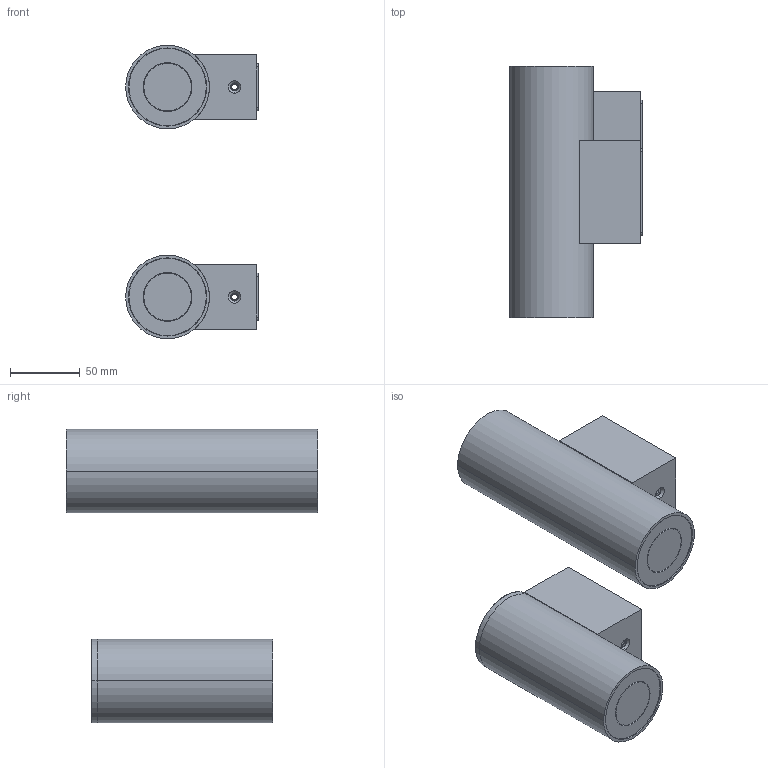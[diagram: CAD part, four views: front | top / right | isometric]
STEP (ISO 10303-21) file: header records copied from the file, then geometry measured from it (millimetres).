
FILE_DESCRIPTION((''),'2;1');
FILE_NAME('B7DH01-0224_ASM','2024-09-04T',('Administrator'),(''),'CREO PARAMETRIC BY PTC INC, 2015200','CREO PARAMETRIC BY PTC INC, 2015200','');
FILE_SCHEMA(('CONFIG_CONTROL_DESIGN'));
Products named in the file (40): DENGTI_130; SOURCE_ASM_131_ASM; MUZU_ASM_132_ASM; HOUGAI0_124; D60_ASM_129_ASM; SANREKUAI_132; SUJIAOJIAN_140; 7DH-SANREGUAN_132; FWZ2_128; GUIJIAO001_15; D60_ASM_333_ASM; ZHICHENBAN_4_9; GJ_12; PRT0001_2_13; 8DI-MGGB_5; PRT0003_11; 9-8-8DH_ASM_ASM_99_ASM; 8DI_ASM; BIBAN_137; GUDINGZUO_156; GUIJIAO01_39; GUIJIAO02_37; BAOMIAN_134; MZZHIJIA0-00_18; SUJIAOMUZHU_108; DIANYUANHEGAI_138; 7DH-12345678_ASM; B7DH0124_ASM; DENGTI_102; COBZHIJIA_85; TOUJING_85; CHQ-NC_13; GUANGYUAN_14; SOURCE_ASM_85_ASM; SUJIAOJIAN_84; SANREKUAI2_85; FWZ2_51; D60_ASM_33_ASM; B7DH0224_ASM; B7DH01-0224_ASM
Assembly tree (45 placements, depth 5):
  B7DH01-0224_ASM
    B7DH0124_ASM
      D60_ASM_129_ASM
        DENGTI_130
        SOURCE_ASM_131_ASM
        MUZU_ASM_132_ASM
        HOUGAI0_124
      D60_ASM_333_ASM
        SANREKUAI_132
        SOURCE_ASM_131_ASM
        SUJIAOJIAN_140
        7DH-SANREGUAN_132
        FWZ2_128
        GUIJIAO001_15
      8DI_ASM
        9-8-8DH_ASM_ASM_99_ASM
          ZHICHENBAN_4_9
          GJ_12
          PRT0001_2_13
          8DI-MGGB_5
          PRT0003_11
      7DH-12345678_ASM
        BIBAN_137
        GUDINGZUO_156
        GUIJIAO01_39
        GUIJIAO02_37
        BAOMIAN_134
        MZZHIJIA0-00_18
        SUJIAOMUZHU_108
        DIANYUANHEGAI_138
    B7DH0224_ASM
      DENGTI_102
      D60_ASM_33_ASM  x2
        SOURCE_ASM_85_ASM
          COBZHIJIA_85
          TOUJING_85
          CHQ-NC_13
          GUANGYUAN_14
        SUJIAOJIAN_84
        SANREKUAI2_85
        FWZ2_51
        SANREKUAI_132
      8DI_ASM  x2
        9-8-8DH_ASM_ASM_99_ASM
          ZHICHENBAN_4_9
          GJ_12
          PRT0001_2_13
          8DI-MGGB_5
          PRT0003_11
      7DH-12345678_ASM
        BIBAN_137
        GUDINGZUO_156
        GUIJIAO01_39
        GUIJIAO02_37
        BAOMIAN_134
        MZZHIJIA0-00_18
        SUJIAOMUZHU_108
        DIANYUANHEGAI_138
Bounding box: 95 x 180 x 210.4 mm (x, y, z)
Volume: 534289.2 mm3; surface area: 412509.2 mm2
Topology: 55 solids, 55 shells, 4467 faces, 11891 edges, 7648 vertices
Faces by surface type: plane 2193, cylinder 1710, cone 304, torus 142, extrusion 66, bspline 36, revolution 12, sphere 4
Entity records: 82014 total; most frequent: CARTESIAN_POINT 21659, ORIENTED_EDGE 12712, DIRECTION 11969, EDGE_CURVE 6356, VERTEX_POINT 4091, AXIS2_PLACEMENT_3D 4001, VECTOR 3963, LINE 3930
